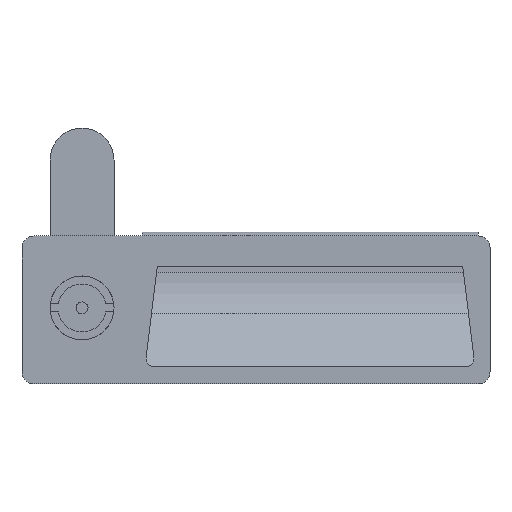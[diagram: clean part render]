
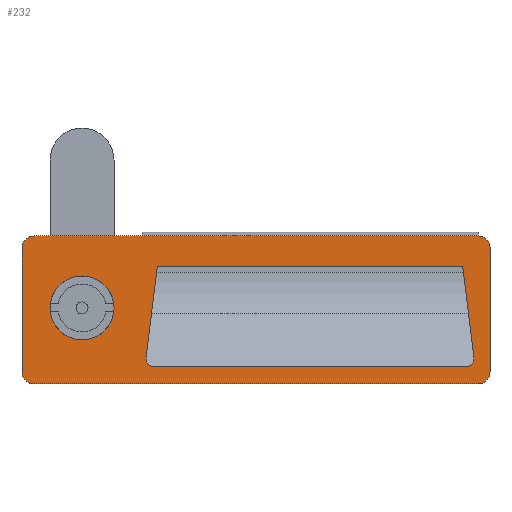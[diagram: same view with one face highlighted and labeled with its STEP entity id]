
A CAD part, top view. The second image highlights one B-rep face of the part: STEP entity #232.
In plain terms, the highlighted planar face has unit normal (0, 0, 1).
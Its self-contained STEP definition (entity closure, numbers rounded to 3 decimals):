
#232 = ADVANCED_FACE( '', ( #400, #401, #402 ), #403, .T. );
#400 = FACE_BOUND( '', #606, .T. );
#401 = FACE_OUTER_BOUND( '', #607, .T. );
#402 = FACE_BOUND( '', #608, .T. );
#403 = PLANE( '', #609 );
#606 = EDGE_LOOP( '', ( #1181 ) );
#607 = EDGE_LOOP( '', ( #1182, #1183, #1184, #1185, #1186, #1187, #1188, #1189 ) );
#608 = EDGE_LOOP( '', ( #1190, #1191, #1192, #1193, #1194, #1195 ) );
#609 = AXIS2_PLACEMENT_3D( '', #1196, #1197, #1198 );
#1181 = ORIENTED_EDGE( '', *, *, #1493, .F. );
#1182 = ORIENTED_EDGE( '', *, *, #1616, .T. );
#1183 = ORIENTED_EDGE( '', *, *, #1617, .T. );
#1184 = ORIENTED_EDGE( '', *, *, #1618, .T. );
#1185 = ORIENTED_EDGE( '', *, *, #1619, .T. );
#1186 = ORIENTED_EDGE( '', *, *, #1620, .T. );
#1187 = ORIENTED_EDGE( '', *, *, #1621, .T. );
#1188 = ORIENTED_EDGE( '', *, *, #1622, .T. );
#1189 = ORIENTED_EDGE( '', *, *, #1623, .T. );
#1190 = ORIENTED_EDGE( '', *, *, #1575, .F. );
#1191 = ORIENTED_EDGE( '', *, *, #1576, .F. );
#1192 = ORIENTED_EDGE( '', *, *, #1566, .F. );
#1193 = ORIENTED_EDGE( '', *, *, #1569, .F. );
#1194 = ORIENTED_EDGE( '', *, *, #1571, .F. );
#1195 = ORIENTED_EDGE( '', *, *, #1573, .F. );
#1196 = CARTESIAN_POINT( '', ( -12., -16., 2. ) );
#1197 = DIRECTION( '', ( 0., 0., 1. ) );
#1198 = DIRECTION( '', ( 1., 0., 0. ) );
#1493 = EDGE_CURVE( '', #1769, #1769, #1770, .T. );
#1566 = EDGE_CURVE( '', #1886, #1888, #1889, .T. );
#1569 = EDGE_CURVE( '', #1891, #1886, #1893, .T. );
#1571 = EDGE_CURVE( '', #1894, #1891, #1896, .T. );
#1573 = EDGE_CURVE( '', #1897, #1894, #1899, .T. );
#1575 = EDGE_CURVE( '', #1900, #1897, #1902, .T. );
#1576 = EDGE_CURVE( '', #1888, #1900, #1903, .T. );
#1616 = EDGE_CURVE( '', #1969, #1970, #1971, .T. );
#1617 = EDGE_CURVE( '', #1970, #1972, #1973, .T. );
#1618 = EDGE_CURVE( '', #1972, #1974, #1975, .T. );
#1619 = EDGE_CURVE( '', #1974, #1976, #1977, .T. );
#1620 = EDGE_CURVE( '', #1976, #1978, #1979, .T. );
#1621 = EDGE_CURVE( '', #1978, #1980, #1981, .T. );
#1622 = EDGE_CURVE( '', #1980, #1982, #1983, .T. );
#1623 = EDGE_CURVE( '', #1982, #1969, #1984, .T. );
#1769 = VERTEX_POINT( '', #2197 );
#1770 = CIRCLE( '', #2198, 8. );
#1886 = VERTEX_POINT( '', #2362 );
#1888 = VERTEX_POINT( '', #2365 );
#1889 = LINE( '', #2366, #2367 );
#1891 = VERTEX_POINT( '', #2370 );
#1893 = LINE( '', #2373, #2374 );
#1894 = VERTEX_POINT( '', #2375 );
#1896 = CIRCLE( '', #2378, 2. );
#1897 = VERTEX_POINT( '', #2379 );
#1899 = LINE( '', #2382, #2383 );
#1900 = VERTEX_POINT( '', #2384 );
#1902 = CIRCLE( '', #2387, 2. );
#1903 = LINE( '', #2388, #2389 );
#1969 = VERTEX_POINT( '', #2480 );
#1970 = VERTEX_POINT( '', #2481 );
#1971 = LINE( '', #2482, #2483 );
#1972 = VERTEX_POINT( '', #2484 );
#1973 = CIRCLE( '', #2485, 3. );
#1974 = VERTEX_POINT( '', #2486 );
#1975 = LINE( '', #2487, #2488 );
#1976 = VERTEX_POINT( '', #2489 );
#1977 = CIRCLE( '', #2490, 3. );
#1978 = VERTEX_POINT( '', #2491 );
#1979 = LINE( '', #2492, #2493 );
#1980 = VERTEX_POINT( '', #2494 );
#1981 = CIRCLE( '', #2495, 3. );
#1982 = VERTEX_POINT( '', #2496 );
#1983 = LINE( '', #2497, #2498 );
#1984 = CIRCLE( '', #2499, 3. );
#2197 = CARTESIAN_POINT( '', ( 8., 0., 2. ) );
#2198 = AXIS2_PLACEMENT_3D( '', #2727, #2728, #2729 );
#2362 = CARTESIAN_POINT( '', ( 95.18, 10.26, 2. ) );
#2365 = CARTESIAN_POINT( '', ( 18.82, 10.26, 2. ) );
#2366 = CARTESIAN_POINT( '', ( 95.18, 10.26, 2. ) );
#2367 = VECTOR( '', #2848, 1000. );
#2370 = CARTESIAN_POINT( '', ( 97.975, -12.496, 2. ) );
#2373 = CARTESIAN_POINT( '', ( 97.975, -12.496, 2. ) );
#2374 = VECTOR( '', #2851, 1000. );
#2375 = CARTESIAN_POINT( '', ( 95.989, -14.74, 2. ) );
#2378 = AXIS2_PLACEMENT_3D( '', #2853, #2854, #2855 );
#2379 = CARTESIAN_POINT( '', ( 18.011, -14.74, 2. ) );
#2382 = CARTESIAN_POINT( '', ( 18.011, -14.74, 2. ) );
#2383 = VECTOR( '', #2857, 1000. );
#2384 = CARTESIAN_POINT( '', ( 16.025, -12.496, 2. ) );
#2387 = AXIS2_PLACEMENT_3D( '', #2859, #2860, #2861 );
#2388 = CARTESIAN_POINT( '', ( 18.82, 10.26, 2. ) );
#2389 = VECTOR( '', #2862, 1000. );
#2480 = CARTESIAN_POINT( '', ( -15., 15., 2. ) );
#2481 = CARTESIAN_POINT( '', ( -15., -16., 2. ) );
#2482 = CARTESIAN_POINT( '', ( -15., 15., 2. ) );
#2483 = VECTOR( '', #2930, 1000. );
#2484 = CARTESIAN_POINT( '', ( -12., -19., 2. ) );
#2485 = AXIS2_PLACEMENT_3D( '', #2931, #2932, #2933 );
#2486 = CARTESIAN_POINT( '', ( 99., -19., 2. ) );
#2487 = CARTESIAN_POINT( '', ( -12., -19., 2. ) );
#2488 = VECTOR( '', #2934, 1000. );
#2489 = CARTESIAN_POINT( '', ( 102., -16., 2. ) );
#2490 = AXIS2_PLACEMENT_3D( '', #2935, #2936, #2937 );
#2491 = CARTESIAN_POINT( '', ( 102., 15., 2. ) );
#2492 = CARTESIAN_POINT( '', ( 102., -16., 2. ) );
#2493 = VECTOR( '', #2938, 1000. );
#2494 = CARTESIAN_POINT( '', ( 99., 18., 2. ) );
#2495 = AXIS2_PLACEMENT_3D( '', #2939, #2940, #2941 );
#2496 = CARTESIAN_POINT( '', ( -12., 18., 2. ) );
#2497 = CARTESIAN_POINT( '', ( 99., 18., 2. ) );
#2498 = VECTOR( '', #2942, 1000. );
#2499 = AXIS2_PLACEMENT_3D( '', #2943, #2944, #2945 );
#2727 = CARTESIAN_POINT( '', ( 0., 0., 2. ) );
#2728 = DIRECTION( '', ( 0., 0., 1. ) );
#2729 = DIRECTION( '', ( 1., 0., 0. ) );
#2848 = DIRECTION( '', ( -1., 0., 0. ) );
#2851 = DIRECTION( '', ( -0.122, 0.993, 0. ) );
#2853 = CARTESIAN_POINT( '', ( 95.989, -12.74, 2. ) );
#2854 = DIRECTION( '', ( 0., 0., 1. ) );
#2855 = DIRECTION( '', ( 1., 0., 0. ) );
#2857 = DIRECTION( '', ( 1., 0., 0. ) );
#2859 = CARTESIAN_POINT( '', ( 18.011, -12.74, 2. ) );
#2860 = DIRECTION( '', ( 0., 0., 1. ) );
#2861 = DIRECTION( '', ( 1., 0., 0. ) );
#2862 = DIRECTION( '', ( -0.122, -0.993, 0. ) );
#2930 = DIRECTION( '', ( 0., -1., 0. ) );
#2931 = CARTESIAN_POINT( '', ( -12., -16., 2. ) );
#2932 = DIRECTION( '', ( 0., 0., 1. ) );
#2933 = DIRECTION( '', ( 1., 0., 0. ) );
#2934 = DIRECTION( '', ( 1., 0., 0. ) );
#2935 = CARTESIAN_POINT( '', ( 99., -16., 2. ) );
#2936 = DIRECTION( '', ( 0., 0., 1. ) );
#2937 = DIRECTION( '', ( 1., 0., 0. ) );
#2938 = DIRECTION( '', ( 0., 1., 0. ) );
#2939 = CARTESIAN_POINT( '', ( 99., 15., 2. ) );
#2940 = DIRECTION( '', ( 0., 0., 1. ) );
#2941 = DIRECTION( '', ( 1., 0., 0. ) );
#2942 = DIRECTION( '', ( -1., 0., 0. ) );
#2943 = CARTESIAN_POINT( '', ( -12., 15., 2. ) );
#2944 = DIRECTION( '', ( 0., 0., 1. ) );
#2945 = DIRECTION( '', ( 1., 0., 0. ) );
